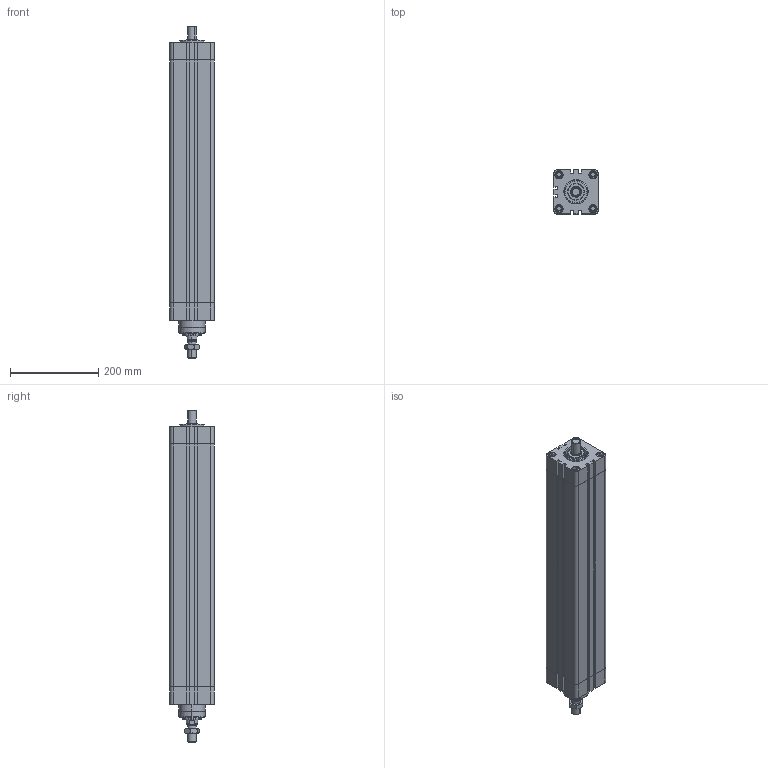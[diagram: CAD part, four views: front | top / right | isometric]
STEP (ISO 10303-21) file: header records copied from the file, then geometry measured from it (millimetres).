
FILE_DESCRIPTION (( 'STEP AP214' ), '1' );
FILE_NAME ('WACE-080-0400 (3D).STEP', '2019-06-29T07:04:49', ( '' ), ( '' ), 'SwSTEP 2.0', 'SolidWorks 2016', '' );
FILE_SCHEMA (( 'AUTOMOTIVE_DESIGN' ));
Length unit declared in the file: millimetre
Products named in the file (4): Group1^WACE-080-0400 (3D); Group3^WACE-080-0400 (3D); Group2^WACE-080-0400 (3D); WACE-080-0400 (3D)
Assembly tree (3 placements, depth 2):
  WACE-080-0400 (3D)
    Group1^WACE-080-0400 (3D)
    Group2^WACE-080-0400 (3D)
    Group3^WACE-080-0400 (3D)
Bounding box: 100 x 100 x 752 mm (x, y, z)
Volume: 4794369 mm3; surface area: 659981.9 mm2
Topology: 17 solids, 17 shells, 694 faces, 1726 edges, 1131 vertices
Faces by surface type: plane 406, cylinder 113, bspline 88, cone 79, torus 8
Entity records: 27426 total; most frequent: CARTESIAN_POINT 9175, ORIENTED_EDGE 3452, DIRECTION 3047, EDGE_CURVE 1726, VERTEX_POINT 1131, LINE 1069, VECTOR 1069, AXIS2_PLACEMENT_3D 989
